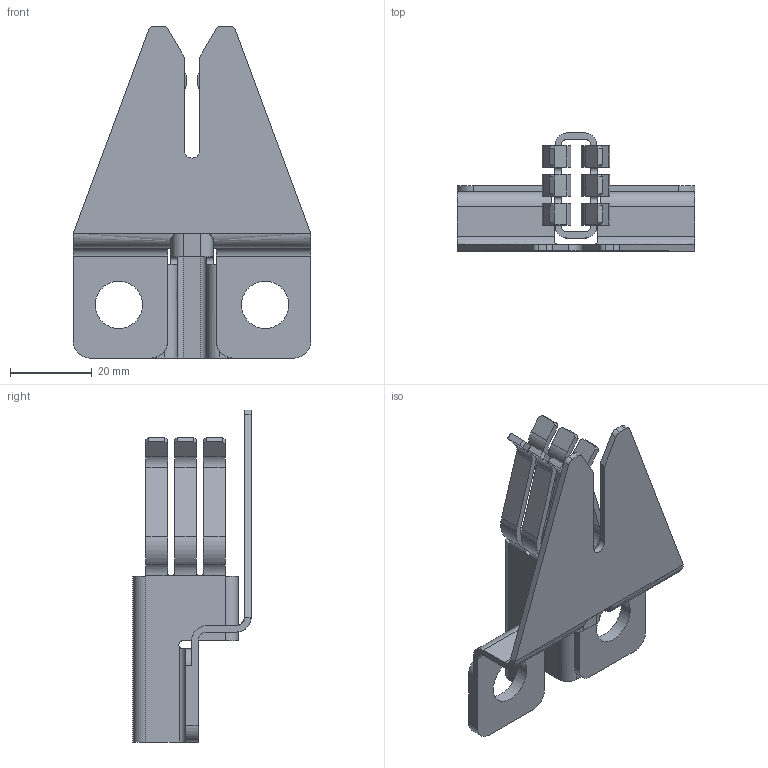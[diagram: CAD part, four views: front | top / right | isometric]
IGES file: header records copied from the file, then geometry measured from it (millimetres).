
Start section:  PTC IGES file: c-104502-1-c-3d.igs
Global section: file name: c-104502-1-c-3d.igs; native system: Pro/ENGINEER by Parametric Technology Corporation; preprocessor: 2005450; author: workeradm; organization: Unknown; date: 080612.184343; units: millimetre
Bounding box: 58.17 x 28.93 x 81.28 mm (x, y, z)
Surface area: 14998.1 mm2 (no closed solid volume)
Topology: 0 solids, 0 shells, 178 faces, 1032 edges, 1032 vertices
Faces by surface type: bspline 101, revolution 77
